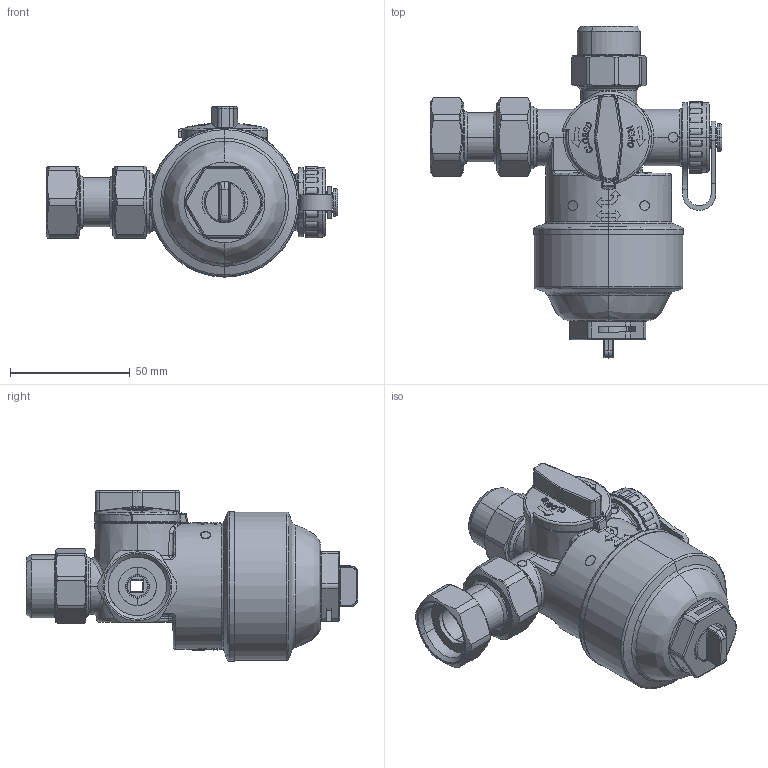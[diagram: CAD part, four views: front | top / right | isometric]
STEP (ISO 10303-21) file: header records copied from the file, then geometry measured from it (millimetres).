
FILE_DESCRIPTION (( 'STEP AP214' ), '1' );
FILE_NAME ('DF01300034.STEP', '2026-03-16T14:25:53', ( '' ), ( '' ), 'SwSTEP 2.0', 'SolidWorks 2024', '' );
FILE_SCHEMA (( 'AUTOMOTIVE_DESIGN' ));
Length unit declared in the file: millimetre
Products named in the file (1): DF01300034
Bounding box: 121.69 x 138.6 x 71.09 mm (x, y, z)
Surface area: 41586.2 mm2 (no closed solid volume)
Topology: 0 solids, 23 shells, 754 faces, 2465 edges, 1676 vertices
Faces by surface type: plane 222, cylinder 178, bspline 128, cone 117, torus 104, sphere 5
Entity records: 45248 total; most frequent: CARTESIAN_POINT 17437, ORIENTED_EDGE 4095, DIRECTION 3526, EDGE_CURVE 2460, VERTEX_POINT 1676, AXIS2_PLACEMENT_3D 1287, VECTOR 952, LINE 952
